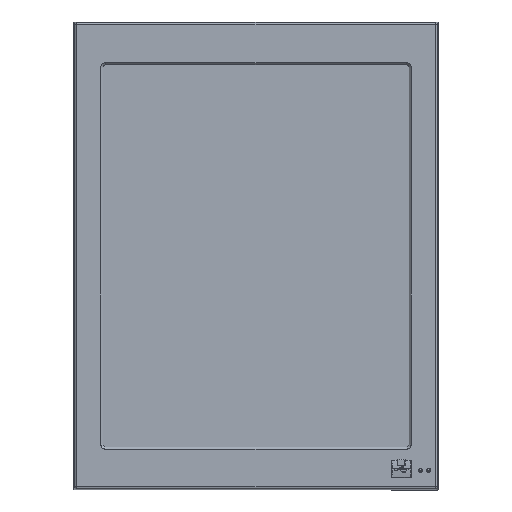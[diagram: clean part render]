
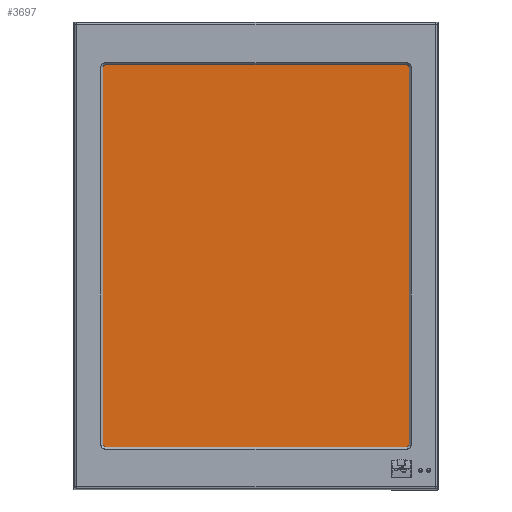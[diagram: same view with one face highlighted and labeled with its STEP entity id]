
A CAD part, top view. The second image highlights one B-rep face of the part: STEP entity #3697.
In plain terms, the highlighted planar face has unit normal (0, 0, 1) as drawn and (0, 1, 0) by its records, which use the part's own axes.
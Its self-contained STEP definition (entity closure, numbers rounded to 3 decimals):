
#3697 = ADVANCED_FACE ( 'NONE', ( #65934 ), #52634, .F. ) ;
#8406 = LINE ( 'NONE', #8950, #28631 ) ;
#8943 = ORIENTED_EDGE ( 'NONE', *, *, #62688, .T. ) ;
#8950 = CARTESIAN_POINT ( 'NONE',  ( 388.96, 2., -12.17 ) ) ;
#9466 = VECTOR ( 'NONE', #37493, 1000. ) ;
#10069 = VERTEX_POINT ( 'NONE', #90784 ) ;
#10144 = EDGE_LOOP ( 'NONE', ( #94252, #98468, #73254, #8943 ) ) ;
#10420 = EDGE_CURVE ( 'NONE', #10069, #28414, #52383, .T. ) ;
#14183 = CARTESIAN_POINT ( 'NONE',  ( 388.96, 2., -12.17 ) ) ;
#14705 = AXIS2_PLACEMENT_3D ( 'NONE', #27577, #44745, #104914 ) ;
#16231 = DIRECTION ( 'NONE',  ( 1., 0., 0. ) ) ;
#21192 = DIRECTION ( 'NONE',  ( -1., 0., 0. ) ) ;
#22572 = VERTEX_POINT ( 'NONE', #28452 ) ;
#27577 = CARTESIAN_POINT ( 'NONE',  ( 11.64, 2., -314.23 ) ) ;
#28414 = VERTEX_POINT ( 'NONE', #14183 ) ;
#28452 = CARTESIAN_POINT ( 'NONE',  ( 388.96, 2., -314.23 ) ) ;
#28631 = VECTOR ( 'NONE', #103436, 1000. ) ;
#28834 = CARTESIAN_POINT ( 'NONE',  ( 11.64, 2., -12.17 ) ) ;
#29439 = VECTOR ( 'NONE', #16231, 1000. ) ;
#33369 = EDGE_CURVE ( 'NONE', #28414, #22572, #8406, .T. ) ;
#37493 = DIRECTION ( 'NONE',  ( 0., 0., 1. ) ) ;
#44745 = DIRECTION ( 'NONE',  ( 0., -1., 0. ) ) ;
#45519 = CARTESIAN_POINT ( 'NONE',  ( 11.64, 2., -314.23 ) ) ;
#52383 = LINE ( 'NONE', #93017, #29439 ) ;
#52634 = PLANE ( 'NONE',  #14705 ) ;
#62688 = EDGE_CURVE ( 'NONE', #22572, #95419, #81712, .T. ) ;
#65934 = FACE_OUTER_BOUND ( 'NONE', #10144, .T. ) ;
#73254 = ORIENTED_EDGE ( 'NONE', *, *, #33369, .T. ) ;
#78178 = LINE ( 'NONE', #28834, #9466 ) ;
#79006 = VECTOR ( 'NONE', #21192, 1000. ) ;
#81712 = LINE ( 'NONE', #107379, #79006 ) ;
#84968 = EDGE_CURVE ( 'NONE', #95419, #10069, #78178, .T. ) ;
#90784 = CARTESIAN_POINT ( 'NONE',  ( 11.64, 2., -12.17 ) ) ;
#93017 = CARTESIAN_POINT ( 'NONE',  ( 11.64, 2., -12.17 ) ) ;
#94252 = ORIENTED_EDGE ( 'NONE', *, *, #84968, .T. ) ;
#95419 = VERTEX_POINT ( 'NONE', #45519 ) ;
#98468 = ORIENTED_EDGE ( 'NONE', *, *, #10420, .T. ) ;
#103436 = DIRECTION ( 'NONE',  ( 0., 0., -1. ) ) ;
#104914 = DIRECTION ( 'NONE',  ( 0., 0., -1. ) ) ;
#107379 = CARTESIAN_POINT ( 'NONE',  ( 11.64, 2., -314.23 ) ) ;
